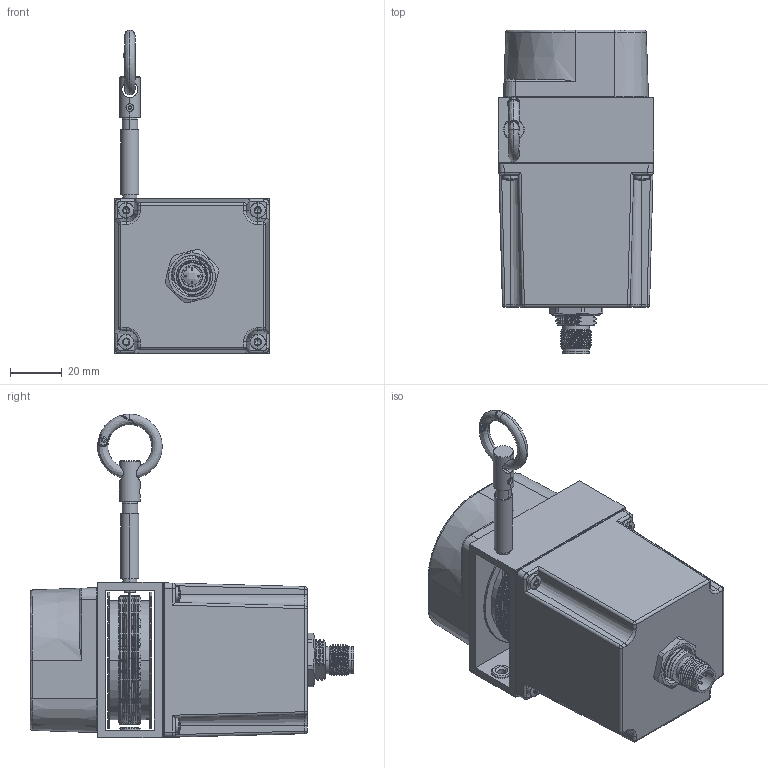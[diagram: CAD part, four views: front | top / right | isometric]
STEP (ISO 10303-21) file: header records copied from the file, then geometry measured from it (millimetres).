
FILE_DESCRIPTION (( 'STEP AP214' ), '1' );
FILE_NAME ('Z_D8.C60_ohne_Seilturm.STEP', '2018-05-23T05:58:22', ( '' ), ( '' ), 'SwSTEP 2.0', 'SolidWorks 2017', '' );
FILE_SCHEMA (( 'AUTOMOTIVE_DESIGN' ));
Length unit declared in the file: millimetre
Products named in the file (1): Z_D8.C60_ohne_Seilturm
Bounding box: 60 x 125 x 125 mm (x, y, z)
Surface area: 54830.3 mm2 (no closed solid volume)
Topology: 0 solids, 37 shells, 603 faces, 1775 edges, 1163 vertices
Faces by surface type: cylinder 233, bspline 177, plane 87, cone 86, torus 20
Entity records: 43661 total; most frequent: CARTESIAN_POINT 22794, ORIENTED_EDGE 2992, DIRECTION 2637, EDGE_CURVE 1762, VERTEX_POINT 1163, AXIS2_PLACEMENT_3D 1075, EDGE_LOOP 662, CIRCLE 648
